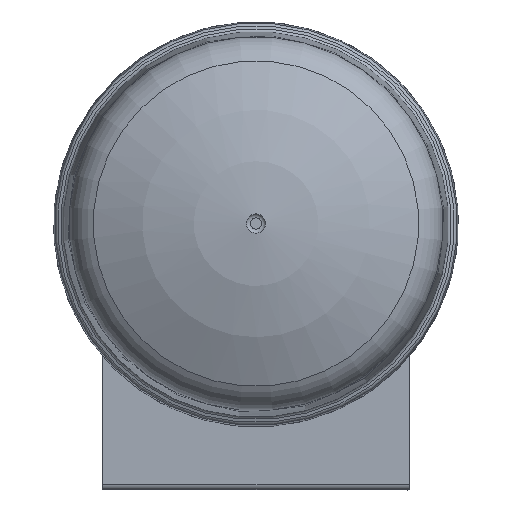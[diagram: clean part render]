
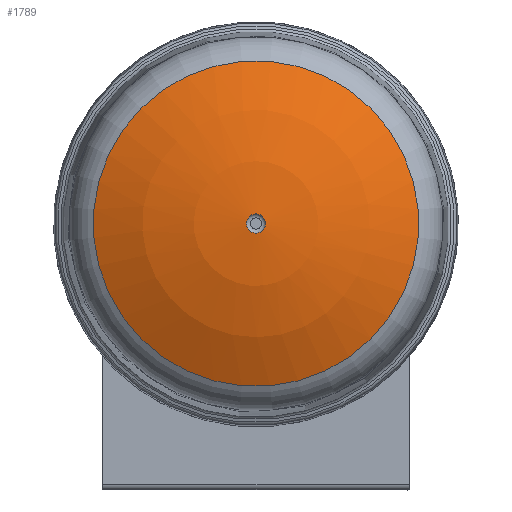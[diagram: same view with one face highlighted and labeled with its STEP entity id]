
A CAD part, top view. The second image highlights one B-rep face of the part: STEP entity #1789.
In plain terms, the highlighted spherical face has radius 85 mm.
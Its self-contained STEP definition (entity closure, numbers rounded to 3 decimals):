
#42=SPHERICAL_SURFACE('',#12940,85.);
#1789=ADVANCED_FACE('',(#4562,#4563),#42,.T.);
#4562=FACE_BOUND('',#5378,.T.);
#4563=FACE_BOUND('',#5379,.T.);
#5378=EDGE_LOOP('',(#8457));
#5379=EDGE_LOOP('',(#8458));
#8457=ORIENTED_EDGE('',*,*,#11543,.T.);
#8458=ORIENTED_EDGE('',*,*,#11544,.F.);
#9923=VERTEX_POINT('',#20443);
#9924=VERTEX_POINT('',#20445);
#11543=EDGE_CURVE('',#9923,#9923,#12008,.T.);
#11544=EDGE_CURVE('',#9924,#9924,#12009,.T.);
#12008=CIRCLE('',#12938,2.25);
#12009=CIRCLE('',#12939,38.185);
#12938=AXIS2_PLACEMENT_3D('',#20442,#15672,#15673);
#12939=AXIS2_PLACEMENT_3D('',#20444,#15674,#15675);
#12940=AXIS2_PLACEMENT_3D('',#20446,#15676,#15677);
#15672=DIRECTION('',(0.,0.,-1.));
#15673=DIRECTION('',(-0.966,0.259,0.));
#15674=DIRECTION('',(0.,0.,-1.));
#15675=DIRECTION('',(0.966,-0.259,0.));
#15676=DIRECTION('',(0.,0.,-1.));
#15677=DIRECTION('',(0.966,-0.259,0.));
#20442=CARTESIAN_POINT('',(0.,0.,110.67));
#20443=CARTESIAN_POINT('',(-2.173,0.582,110.67));
#20444=CARTESIAN_POINT('',(0.,0.,101.64));
#20445=CARTESIAN_POINT('',(36.884,-9.883,101.64));
#20446=CARTESIAN_POINT('',(0.,0.,25.7));
